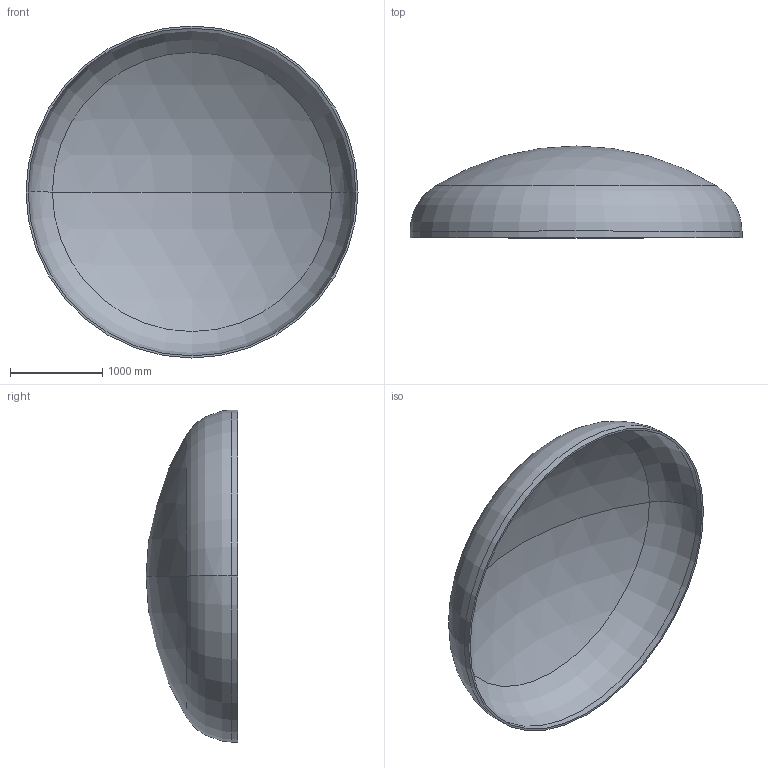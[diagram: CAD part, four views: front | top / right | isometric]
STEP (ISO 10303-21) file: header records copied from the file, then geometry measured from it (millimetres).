
FILE_DESCRIPTION (( 'STEP AP203' ), '1' );
FILE_NAME ('DIN 28013 Korbbogenform_-_Boden DIN 28013 - 3600 x 70 - I - s=23.step', '2016-07-01T20:13:11', ( '' ), ( '' ), 'SwSTEP 2.0', 'SolidWorks 2013', '' );
FILE_SCHEMA (( 'CONFIG_CONTROL_DESIGN' ));
Length unit declared in the file: millimetre
Products named in the file (1): DIN 28013 Korbbogenform_-_Boden DIN 28013 - 3600 x 70 - I - s=23
Bounding box: 3600 x 995.04 x 3600 mm (x, y, z)
Volume: 339679861.9 mm3; surface area: 29796937.7 mm2
Topology: 1 solids, 1 shells, 13 faces, 24 edges, 14 vertices
Faces by surface type: torus 4, cylinder 4, sphere 4, plane 1
Entity records: 407 total; most frequent: DIRECTION 72, CARTESIAN_POINT 52, ORIENTED_EDGE 48, AXIS2_PLACEMENT_3D 34, EDGE_CURVE 24, CIRCLE 20, VERTEX_POINT 14, EDGE_LOOP 14
